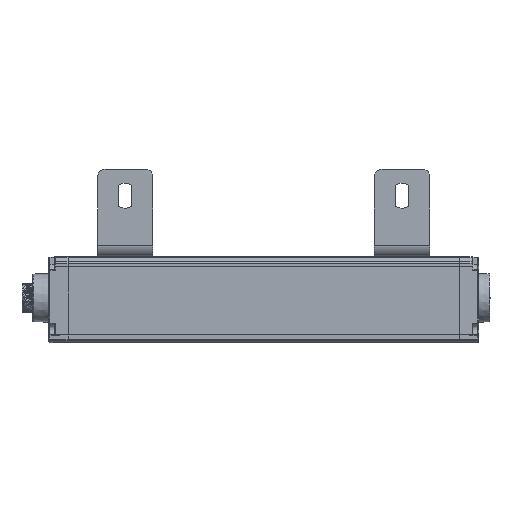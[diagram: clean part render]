
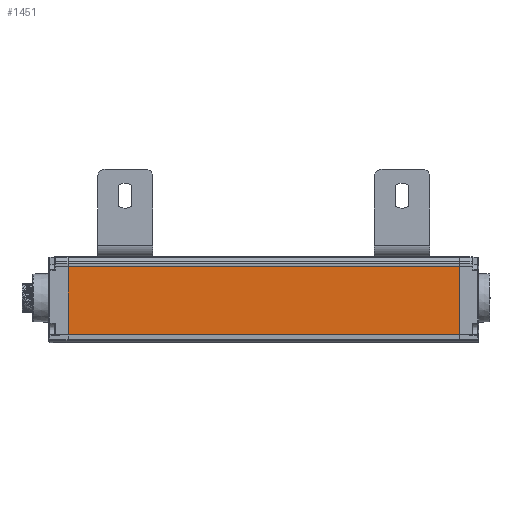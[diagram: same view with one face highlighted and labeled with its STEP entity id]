
A CAD part, left-side view. The second image highlights one B-rep face of the part: STEP entity #1451.
In plain terms, the highlighted planar face has unit normal (-1, 0, 0).
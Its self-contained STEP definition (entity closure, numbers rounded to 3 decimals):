
#24=DIRECTION('',(0.,0.,1.));
#25=VECTOR('',#24,35.4);
#26=CARTESIAN_POINT('',(-17.7,-102.5,-18.1));
#27=LINE('',#26,#25);
#361=DIRECTION('',(0.,0.,1.));
#362=VECTOR('',#361,35.4);
#363=CARTESIAN_POINT('',(-17.7,102.5,-18.1));
#364=LINE('',#363,#362);
#534=DIRECTION('',(0.,1.,0.));
#535=VECTOR('',#534,205.);
#536=CARTESIAN_POINT('',(-17.7,-102.5,17.3));
#537=LINE('',#536,#535);
#538=DIRECTION('',(0.,1.,0.));
#539=VECTOR('',#538,205.);
#540=CARTESIAN_POINT('',(-17.7,-102.5,-18.1));
#541=LINE('',#540,#539);
#613=CARTESIAN_POINT('',(-17.7,-102.5,-18.1));
#615=VERTEX_POINT('',#613);
#616=CARTESIAN_POINT('',(-17.7,-102.5,17.3));
#617=VERTEX_POINT('',#616);
#633=CARTESIAN_POINT('',(-17.7,102.5,-18.1));
#635=VERTEX_POINT('',#633);
#636=CARTESIAN_POINT('',(-17.7,102.5,17.3));
#637=VERTEX_POINT('',#636);
#1439=CARTESIAN_POINT('',(-17.7,-102.5,-18.1));
#1440=DIRECTION('',(-1.,0.,0.));
#1441=DIRECTION('',(0.,0.,1.));
#1442=AXIS2_PLACEMENT_3D('',#1439,#1440,#1441);
#1443=PLANE('',#1442);
#1444=ORIENTED_EDGE('',*,*,#741,.F.);
#1446=ORIENTED_EDGE('',*,*,#1445,.T.);
#1447=ORIENTED_EDGE('',*,*,#933,.T.);
#1448=ORIENTED_EDGE('',*,*,#1432,.F.);
#1449=EDGE_LOOP('',(#1444,#1446,#1447,#1448));
#1450=FACE_OUTER_BOUND('',#1449,.F.);
#1451=ADVANCED_FACE('',(#1450),#1443,.T.);
#741=EDGE_CURVE('',#615,#617,#27,.T.);
#933=EDGE_CURVE('',#635,#637,#364,.T.);
#1432=EDGE_CURVE('',#617,#637,#537,.T.);
#1445=EDGE_CURVE('',#615,#635,#541,.T.);
